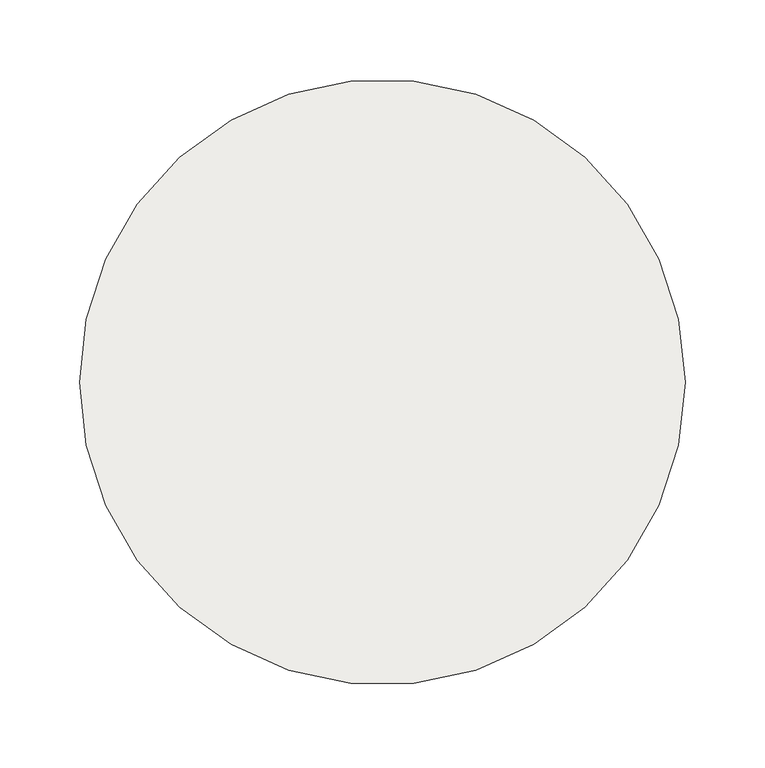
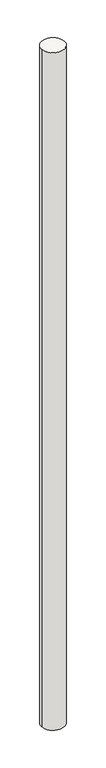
"""IFC4 building model written with IfcOpenShell, lengths in millimetres: footing geometry, NLRS_17_SFO_TLB_funderingspaal rond_gen_ISR : Type 01_ø380/450_Fd=900kN."""

from ifc_helpers import new_model, si_unit, point, frame, origin, origin_2d, place, context, project, spatial, circle_curve, trimmed, segment, composite_curve, outline, extrude, source, transform, mapped, element, save


def footing_31d2c532(model_context):
    return source(origin(), model_context, "Body", "SweptSolid", [
        extrude(outline(composite_curve([segment(trimmed(circle_curve(origin_2d(), 190.0), [point((190.0, 0.0))], [point((-190.0, 0.0))], False, "CARTESIAN"), True, "CONTINUOUS"), segment(trimmed(circle_curve(origin_2d(), 190.0), [point((-190.0, 0.0))], [point((190.0, 0.0))], False, "CARTESIAN"), True, "CONTINUOUS")], self_intersect=False)), frame((0.0, 0.0, -13000.0), z_axis=(0.0, 0.0, 1.0), x_axis=(1.0, 0.0, 0.0)), (0.0, 0.0, 1.0), 11890.0),
    ])


if __name__ == "__main__":
    model = new_model("IFC4")
    model_context = context("Model", 3, world=origin())
    ifc_project = project(units=[si_unit("LENGTHUNIT", "METRE", prefix="MILLI")], contexts=[model_context])
    site = spatial("IfcSite", under=ifc_project)
    building = spatial("IfcBuilding", under=site)
    placement = place(None, origin())
    footing_shape = footing_31d2c532(model_context)
    element("IfcFooting", 1, ObjectType="NLRS_17_SFO_TLB_funderingspaal rond_gen_ISR : Type 01_ø380/450_Fd=900kN", at=placement, inside=building, context=model_context, shape_type="MappedRepresentation", body=[
        mapped(footing_shape, transform((0.0, 0.0, 0.0), x_axis=(1.0, 0.0, 0.0), y_axis=(0.0, 1.0, 0.0), z_axis=(0.0, 0.0, 1.0))),
    ])
    save(model, "model.ifc")
